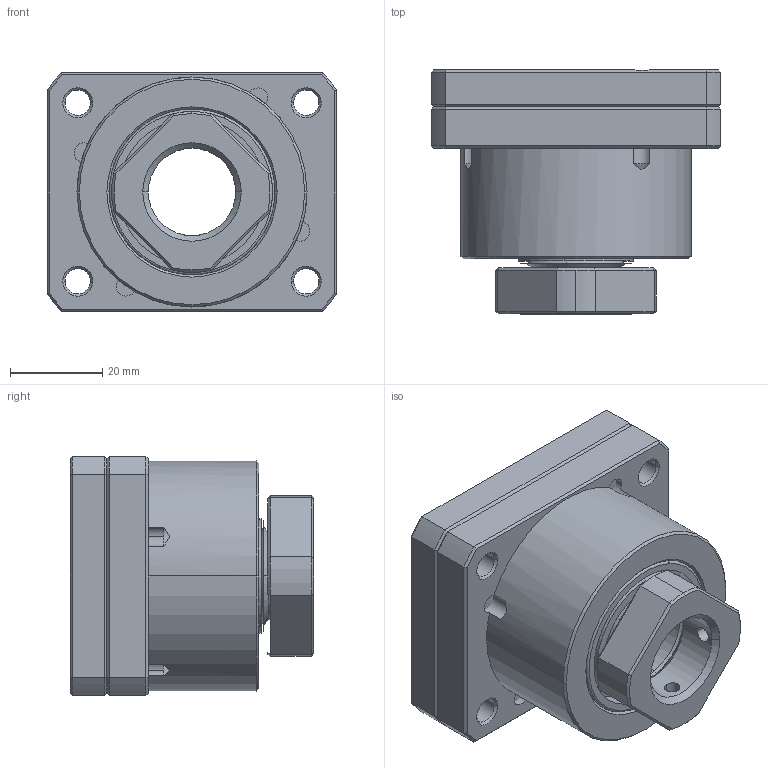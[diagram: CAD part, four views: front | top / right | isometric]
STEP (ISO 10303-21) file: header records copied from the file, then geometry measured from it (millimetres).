
FILE_DESCRIPTION (( 'STEP AP203' ), '1' );
FILE_NAME ('FKA20L ²Õ¦X¹ÏB.STEP', '2021-09-29T02:57:45', ( '' ), ( '' ), 'SwSTEP 2.0', 'SolidWorks 2018', '' );
FILE_SCHEMA (( 'CONFIG_CONTROL_DESIGN' ));
Length unit declared in the file: millimetre
Products named in the file (1): FKA20L 組合圖B
Bounding box: 63 x 53 x 52 mm (x, y, z)
Surface area: 25057.3 mm2 (no closed solid volume)
Topology: 0 solids, 17 shells, 243 faces, 613 edges, 383 vertices
Faces by surface type: cylinder 83, plane 82, cone 64, torus 10, bspline 4
Entity records: 7764 total; most frequent: CARTESIAN_POINT 1858, DIRECTION 1290, ORIENTED_EDGE 1103, EDGE_CURVE 613, AXIS2_PLACEMENT_3D 513, VERTEX_POINT 383, CIRCLE 273, EDGE_LOOP 272
